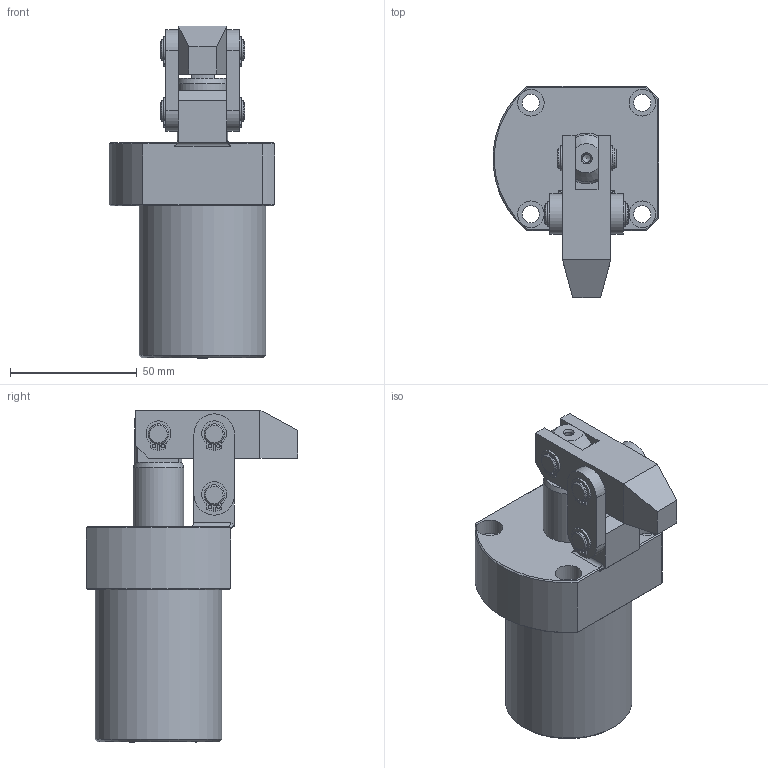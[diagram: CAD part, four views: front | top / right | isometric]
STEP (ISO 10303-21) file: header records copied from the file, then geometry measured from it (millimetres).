
FILE_DESCRIPTION(/* description */ ('Unknown'),/* implementation_level */ '2;1');
FILE_NAME(/* name */ 'HLC-FAM32-R-A',/* time_stamp */ '2022-11-23T03:15:46+08:00',/* author */ ('Unknown'),/* organization */ ('Unknown'),/* preprocessor_version */ 'ST-DEVELOPER v16.7',/* originating_system */ 'DEX',/* authorisation */ $);
FILE_SCHEMA (('AUTOMOTIVE_DESIGN {1 0 10303 214 3 1 1}'));
Length unit declared in the file: millimetre
Products named in the file (8): HLC-FAM32-R-A; HLC-FAM32-R-CYLINDER; HLC-3202-AXLE CENTRE; HLC-32-A; HLC-32-墊; HLC-32-PINｵuｭ; HLC-32-PINªø; HLC-32-Cｦｩ｣迺ｰ
Assembly tree (14 placements, depth 2):
  HLC-FAM32-R-A
    HLC-FAM32-R-CYLINDER
    HLC-3202-AXLE CENTRE
    HLC-32-A
    HLC-32-墊  x2
    HLC-32-PINｵuｭ
    HLC-32-PINªø  x2
    HLC-32-Cｦｩ｣迺ｰ  x6
Bounding box: 65.38 x 83.5 x 131 mm (x, y, z)
Volume: 220610.9 mm3; surface area: 52693.7 mm2
Topology: 14 solids, 14 shells, 264 faces, 610 edges, 401 vertices
Faces by surface type: cylinder 123, plane 117, cone 22, torus 2
Full cylindrical faces by diameter (mm): 1.4 x12, 3 x2, 3.2 x1, 4.1 x2, 6.8 x4, 7.5 x6, 8 x18, 9 x2, 10.5 x4, 20 x2, 31.5 x1, 32 x1, 50 x1
Entity records: 4456 total; most frequent: CARTESIAN_POINT 768, DIRECTION 765, ORIENTED_EDGE 584, AXIS2_PLACEMENT_3D 321, EDGE_CURVE 292, FACE_BOUND 266, EDGE_LOOP 265, VERTEX_POINT 220
